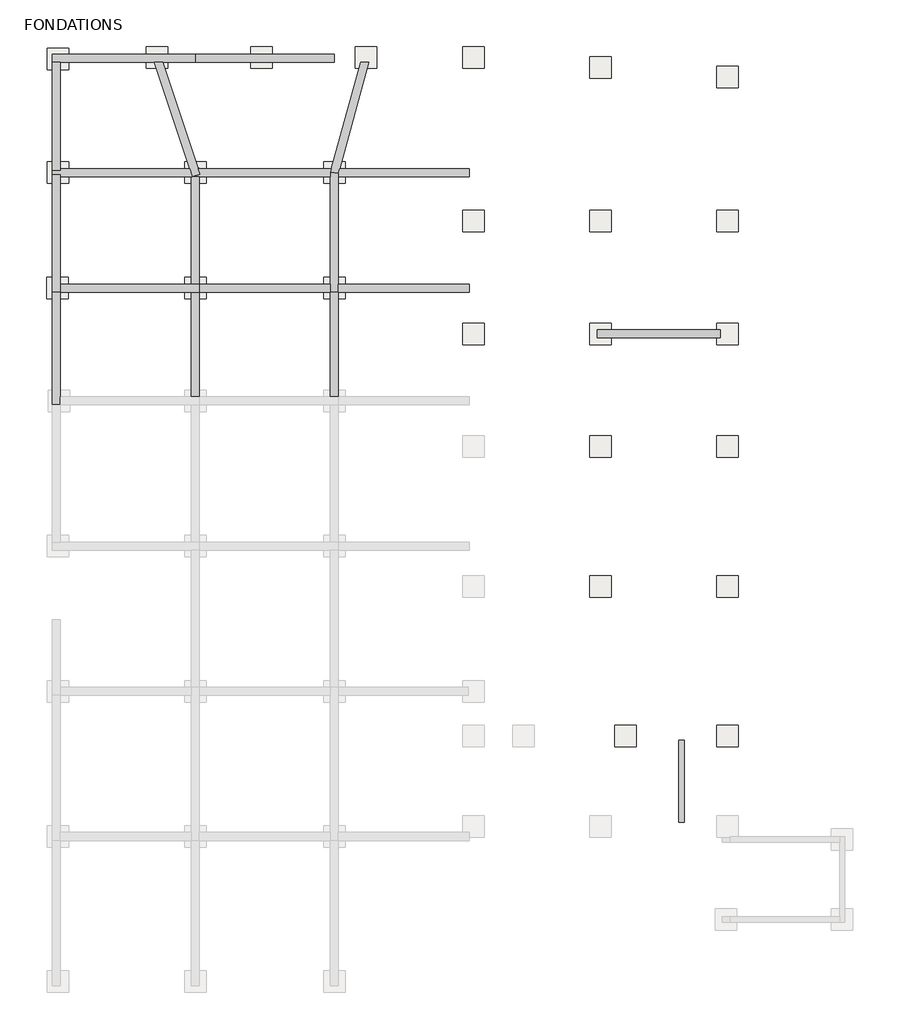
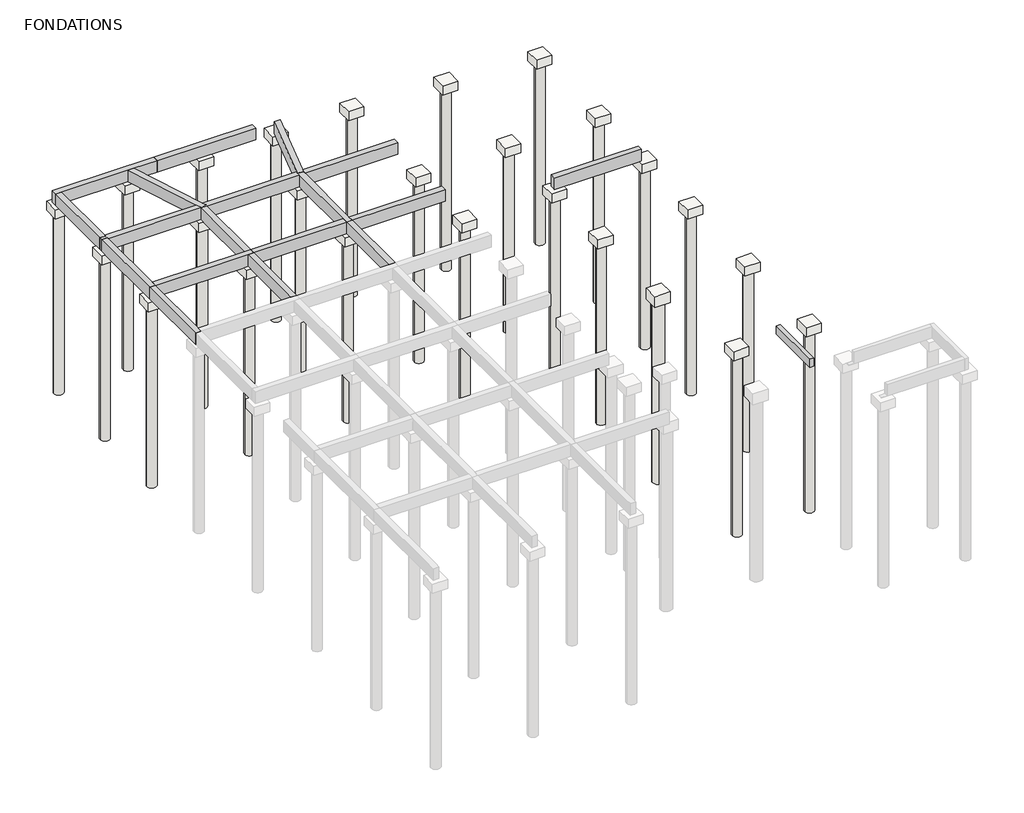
# One storey, part 3 of 3: 50 slabs, 19 beams.
"""IFC4 building model written with IfcOpenShell, lengths in millimetres."""

from ifc_helpers import new_model, si_unit, point, frame, frame_2d, origin, place, context, project, spatial, polyline, circle_curve, trimmed, segment, composite_curve, outline, extrude, faceted_brep, element, save

model = new_model("IFC4")

# Units and contexts
model_context = context("Model", 3, world=origin())
ifc_project = project(units=[si_unit("LENGTHUNIT", "METRE", prefix="MILLI")], contexts=[model_context])

# Site, building, storey
site = spatial("IfcSite", under=ifc_project)
building = spatial("IfcBuilding", under=site)
storey = spatial("IfcBuildingStorey", under=building, Name="FONDATIONS", Elevation=-650.0)

# Beams
placement = place(None, origin())
element("IfcBeam", 1, ObjectType="Longrine : 20x65h", at=placement, inside=storey, context=model_context, shape_type="SweptSolid", body=[
    extrude(outline(polyline([(38079.048278, 50129.8020815), (38279.048278, 50129.8020815), (38279.048278, 47079.8020813), (38079.048278, 47079.8020813), (38079.048278, 50129.8020815)])), frame((0.0, 0.0, -650.0), z_axis=(0.0, 0.0, 1.0), x_axis=(1.0, 0.0, 0.0)), (0.0, 0.0, 1.0), 450.0),
])
element("IfcBeam", 2, ObjectType="Longrine : 30x65h", at=placement, inside=storey, context=model_context, shape_type="SweptSolid", body=[
    extrude(outline(polyline([(39626.7482776, 65399.8020814), (39626.7482776, 65099.8020814), (35054.0482776, 65099.8020814), (35054.0482776, 65399.8020814), (39626.7482776, 65399.8020814)])), frame((0.0, 0.0, -650.0), z_axis=(0.0, 0.0, 1.0), x_axis=(1.0, 0.0, 0.0)), (0.0, 0.0, 1.0), 650.0),
])
element("IfcBeam", 3, ObjectType="Longrine : 30x65h", at=placement, inside=storey, context=model_context, shape_type="SweptSolid", body=[
    extrude(outline(polyline([(20092.0406356, 75644.7694586), (25266.0406356, 75644.7694586), (25266.0406356, 75344.7694586), (20092.0406356, 75344.7694586), (20092.0406356, 75644.7694586)])), frame((0.0, 0.0, -650.0), z_axis=(0.0, 0.0, 1.0), x_axis=(1.0, 0.0, 0.0)), (0.0, 0.0, 1.0), 650.0),
])
element("IfcBeam", 4, ObjectType="Longrine : 30x65h", at=placement, inside=storey, context=model_context, shape_type="Brep", body=[
    faceted_brep([(20092.0406356, 75644.7694586, 0.0), (20092.0406356, 75644.7694586, -650.0), (14769.048278, 75644.7694586, -650.0), (14769.048278, 75644.7694586, 0.0), (15319.509617, 75644.7694586, 0.0), (20092.0406356, 75344.7694586, -650.0), (18879.6632021, 75344.7694586, -650.0), (18563.3064902, 75344.7694586, -650.0), (15069.048278, 75344.7694586, -650.0), (14769.048278, 75344.7694586, -650.0), (20092.0406356, 75344.7694586, 0.0), (18879.6632021, 75344.7694586, 0.0), (18563.3064902, 75344.7694586, 0.0), (15069.048278, 75344.7694586, 0.0), (14769.048278, 75344.7694586, 0.0)], [[[0, 1, 2, 3, 4]], [[1, 5, 6, 7, 8, 9, 2]], [[5, 10, 11, 12, 13, 14, 9, 8, 7, 6]], [[10, 0, 4, 3, 14, 13, 12, 11]], [[0, 10, 5, 1]], [[3, 2, 9, 14]]]),
])
element("IfcBeam", 5, ObjectType="Longrine : 30x65h", at=placement, inside=storey, context=model_context, shape_type="Brep", body=[
    faceted_brep([(14769.048278, 71335.7608439, 0.0), (14769.048278, 71335.7608439, -650.0), (15069.048278, 71335.7608439, -650.0), (15069.048278, 71335.7608439, 0.0), (14769.048278, 75324.2867291, 0.0), (14769.048278, 75344.7694586, 0.0), (14769.048278, 75344.7694586, -650.0), (15069.048278, 75344.7694586, -650.0), (15069.048278, 71399.8020807, -650.0), (15069.048278, 75344.7694586, -200.0), (15069.048278, 75344.7694586, 0.0), (15069.048278, 71399.8020807, 0.0)], [[[0, 1, 2, 3]], [[1, 0, 4, 5, 6]], [[2, 1, 6, 7, 8]], [[3, 2, 8, 7, 9, 10, 11]], [[0, 3, 11, 10, 5, 4]], [[6, 5, 10, 9, 7]]]),
])
element("IfcBeam", 6, ObjectType="Longrine : 30x65h", at=placement, inside=storey, context=model_context, shape_type="Brep", body=[
    faceted_brep([(14769.048278, 71164.2771549, 0.0), (15069.048278, 71164.2771549, 0.0), (15069.048278, 71164.2771549, -650.0), (14769.048278, 71164.2771549, -650.0), (14769.048278, 66799.8020807, -650.0), (14769.048278, 66799.8020807, 0.0), (15069.048278, 71099.8020807, -650.0), (15069.048278, 67099.8020807, -650.0), (15069.048278, 66799.8020807, -650.0), (15069.048278, 71099.8020807, 0.0), (15069.048278, 67099.8020807, 0.0), (15069.048278, 66799.8020807, 0.0)], [[[0, 1, 2, 3]], [[0, 3, 4, 5]], [[3, 2, 6, 7, 8, 4]], [[2, 1, 9, 10, 11, 8, 7, 6]], [[1, 0, 5, 11, 10, 9]], [[5, 4, 8, 11]]]),
])
element("IfcBeam", 7, ObjectType="Longrine : 30x65h", at=placement, inside=storey, context=model_context, shape_type="Brep", body=[
    faceted_brep([(14769.048278, 62602.7522291, -650.0), (14769.048278, 62602.7522291, 0.0), (14769.048278, 62835.2867291, 0.0), (14769.048278, 66799.8020807, 0.0), (14769.048278, 66799.8020807, -650.0), (15069.048278, 62602.7522291, -650.0), (15069.048278, 66799.8020807, -650.0), (15069.048278, 62902.7522291, -650.0), (15069.048278, 62602.7522291, 0.0), (15069.048278, 66799.8020807, -200.0), (15069.048278, 66799.8020807, 0.0), (15069.048278, 62902.7522291, 0.0)], [[[0, 1, 2, 3, 4]], [[5, 0, 4, 6, 7]], [[8, 5, 7, 6, 9, 10, 11]], [[1, 8, 11, 10, 3, 2]], [[1, 0, 5, 8]], [[4, 3, 10, 9, 6]]]),
])
element("IfcBeam", 8, ObjectType="Longrine : 30x65h", at=placement, inside=storey, context=model_context, shape_type="Brep", body=[
    faceted_brep([(19984.0548702, 71099.8020807, -650.0), (19984.0548702, 71099.8020807, 0.0), (19883.6478526, 71399.8020807, 0.0), (18563.3064902, 75344.7694586, 0.0), (18563.3064902, 75344.7694586, -200.0), (18563.3064902, 75344.7694586, -650.0), (19883.6478526, 71399.8020807, -650.0), (20268.5438556, 71195.0177159, -650.0), (18879.6632021, 75344.7694586, -650.0), (20199.2146002, 71402.162367, -650.0), (20200.0154828, 71399.7694586, -650.0), (20268.5438556, 71195.0177159, 0.0), (18879.6632021, 75344.7694586, -200.0), (18879.6632021, 75344.7694586, 0.0), (20200.0154828, 71399.7694586, 0.0)], [[[0, 1, 2, 3, 4, 5, 6]], [[7, 0, 6, 5, 8, 9, 10]], [[11, 7, 10, 9, 8, 12, 13, 14]], [[1, 11, 14, 13, 3, 2]], [[1, 0, 7, 11]], [[8, 5, 4, 3, 13, 12]]]),
])
element("IfcBeam", 9, ObjectType="Longrine : 30x65h", at=placement, inside=storey, context=model_context, shape_type="Brep", body=[
    faceted_brep([(25116.0406356, 71270.094564, -650.0), (25116.0406356, 71270.094564, 0.0), (25151.8400065, 71399.7694586, 0.0), (26240.9368486, 75344.7694586, 0.0), (26240.9368486, 75344.7694586, -200.0), (26240.9368486, 75344.7694586, -650.0), (25151.8400065, 71399.7694586, -650.0), (25416.0406356, 71229.4443532, -650.0), (26552.1591595, 75344.7694586, -650.0), (25463.0713234, 71399.8020807, -650.0), (25416.0406356, 71229.4443532, 0.0), (26552.1591595, 75344.7694586, -200.0), (26552.1591595, 75344.7694586, 0.0), (25463.0713234, 71399.8020807, 0.0)], [[[0, 1, 2, 3, 4, 5, 6]], [[7, 0, 6, 5, 8, 9]], [[10, 7, 9, 8, 11, 12, 13]], [[1, 10, 13, 12, 3, 2]], [[1, 0, 7, 10]], [[8, 5, 4, 3, 12, 11]]]),
])
element("IfcBeam", 10, ObjectType="Longrine : 30x65h", at=placement, inside=storey, context=model_context, shape_type="Brep", body=[
    faceted_brep([(25116.0406356, 71270.094564, 0.0), (25116.0406356, 71270.094564, -650.0), (25116.0406356, 71099.7694586, -650.0), (25116.0406356, 67099.8020807, -650.0), (25116.0406356, 66799.8020807, -650.0), (25116.0406356, 66799.8020807, 0.0), (25116.0406356, 67099.8020807, 0.0), (25116.0406356, 71099.7694586, 0.0), (25416.0406356, 71229.4443532, -650.0), (25416.0406356, 71099.8020807, -650.0), (25416.0406356, 67099.8020807, -650.0), (25416.0406356, 66799.8020807, -650.0), (25416.0406356, 71229.4443532, 0.0), (25416.0406356, 71099.8020807, 0.0), (25416.0406356, 67099.8020807, 0.0), (25416.0406356, 66799.8020807, 0.0)], [[[0, 1, 2, 3, 4, 5, 6, 7]], [[1, 8, 9, 10, 11, 4, 3, 2]], [[8, 12, 13, 14, 15, 11, 10, 9]], [[12, 0, 7, 6, 5, 15, 14, 13]], [[0, 12, 8, 1]], [[5, 4, 11, 15]]]),
])
element("IfcBeam", 11, ObjectType="Longrine : 30x65h", at=placement, inside=storey, context=model_context, shape_type="Brep", body=[
    faceted_brep([(19984.0548702, 71099.8020807, -650.0), (19984.0548702, 71099.8020807, 0.0), (19942.0406356, 71099.8020807, 0.0), (15069.048278, 71099.8020807, 0.0), (15069.048278, 71099.8020807, -200.0), (15069.048278, 71099.8020807, -650.0), (19942.0406356, 71099.8020807, -650.0), (19883.6478526, 71399.8020807, -650.0), (15069.048278, 71164.2771549, -650.0), (14769.048278, 71164.2771549, -650.0), (14769.048278, 71335.7608439, -650.0), (15069.048278, 71335.7608439, -650.0), (15069.048278, 71399.8020807, -650.0), (19883.6478526, 71399.8020807, 0.0), (19883.6478526, 71399.8020807, -200.0), (15069.048278, 71399.8020807, -200.0), (15069.048278, 71399.8020807, 0.0), (15069.048278, 71335.7608439, 0.0), (14769.048278, 71335.7608439, 0.0), (14769.048278, 71164.2771549, 0.0), (15069.048278, 71164.2771549, 0.0)], [[[0, 1, 2, 3, 4, 5, 6]], [[7, 0, 6, 5, 8, 9, 10, 11, 12]], [[13, 14, 7, 12, 15, 16]], [[1, 13, 16, 17, 18, 19, 20, 3, 2]], [[1, 0, 7, 14, 13]], [[18, 10, 9, 19]], [[17, 11, 10, 18]], [[11, 17, 16, 15, 12]], [[8, 20, 19, 9]], [[20, 8, 5, 4, 3]]]),
])
element("IfcBeam", 12, ObjectType="Longrine : 30x65h", at=placement, inside=storey, context=model_context, shape_type="Brep", body=[
    faceted_brep([(19983.9574006, 71099.7694586, 0.0), (19983.9574006, 71099.7694586, -650.0), (20242.0406356, 71099.7694586, -650.0), (25116.0406356, 71099.7694586, -650.0), (25116.0406356, 71099.7694586, -200.0), (25116.0406356, 71099.7694586, 0.0), (20242.0406356, 71099.7694586, 0.0), (20268.5438556, 71195.0177159, -650.0), (20200.0154828, 71399.7694586, -650.0), (20242.0406356, 71399.7694586, -650.0), (25151.8400065, 71399.7694586, -650.0), (25116.0406356, 71270.094564, -650.0), (20200.0154828, 71399.7694586, -200.0), (20200.0154828, 71399.7694586, 0.0), (25151.8400065, 71399.7694586, 0.0), (25151.8400065, 71399.7694586, -200.0), (20268.5438556, 71195.0177159, 0.0), (25116.0406356, 71270.094564, 0.0)], [[[0, 1, 2, 3, 4, 5, 6]], [[7, 8, 9, 10, 11, 3, 2, 1]], [[8, 12, 13, 14, 15, 10, 9]], [[13, 16, 0, 6, 5, 17, 14]], [[8, 7, 16, 13, 12]], [[11, 10, 15, 14, 17]], [[5, 4, 3, 11, 17]], [[16, 7, 1, 0]]]),
])
element("IfcBeam", 13, ObjectType="Longrine : 30x65h", at=placement, inside=storey, context=model_context, shape_type="Brep", body=[
    faceted_brep([(30289.0482779, 71099.8020807, -650.0), (30289.0482779, 71099.8020807, -200.0), (30289.0482779, 71099.8020807, 0.0), (25416.0406356, 71099.8020807, 0.0), (25416.0406356, 71099.8020807, -200.0), (25416.0406356, 71099.8020807, -650.0), (30289.0482779, 71399.8020807, -650.0), (25416.0406356, 71229.4443532, -650.0), (25463.0713234, 71399.8020807, -650.0), (30289.0482779, 71399.8020807, 0.0), (30289.0482779, 71399.8020807, -200.0), (25463.0713234, 71399.8020807, -200.0), (25463.0713234, 71399.8020807, 0.0), (25416.0406356, 71229.4443532, 0.0)], [[[0, 1, 2, 3, 4, 5]], [[6, 0, 5, 7, 8]], [[9, 10, 6, 8, 11, 12]], [[2, 9, 12, 13, 3]], [[2, 1, 0, 6, 10, 9]], [[8, 7, 13, 12, 11]], [[5, 4, 3, 13, 7]]]),
])
element("IfcBeam", 14, ObjectType="Longrine : 30x65h", at=placement, inside=storey, context=model_context, shape_type="Brep", body=[
    faceted_brep([(20242.0406356, 66799.8020807, -650.0), (20242.0406356, 66799.8020807, -200.0), (20242.0406356, 66799.8020807, 0.0), (20241.5466704, 66799.8020807, 0.0), (19942.0406356, 66799.8020807, 0.0), (15069.048278, 66799.8020807, 0.0), (15069.048278, 66799.8020807, -200.0), (15069.048278, 66799.8020807, -650.0), (19942.0406356, 66799.8020807, -650.0), (20242.0406356, 67099.8020807, -650.0), (15069.048278, 67099.8020807, -650.0), (19942.0406356, 67099.8020807, -650.0), (20242.0406356, 67099.8020807, 0.0), (15069.048278, 67099.8020807, -200.0), (15069.048278, 67099.8020807, 0.0), (19942.0406356, 67099.8020807, 0.0)], [[[0, 1, 2, 3, 4, 5, 6, 7, 8]], [[9, 0, 8, 7, 10, 11]], [[12, 9, 11, 10, 13, 14, 15]], [[2, 12, 15, 14, 5, 4, 3]], [[7, 6, 5, 14, 13, 10]], [[2, 1, 0, 9, 12]]]),
])
element("IfcBeam", 15, ObjectType="Longrine : 30x65h", at=placement, inside=storey, context=model_context, shape_type="Brep", body=[
    faceted_brep([(20242.0406356, 66799.8020807, 0.0), (20242.0406356, 66799.8020807, -650.0), (25116.0406356, 66799.8020807, -650.0), (25116.0406356, 66799.8020807, -200.0), (25116.0406356, 66799.8020807, 0.0), (20242.0406356, 67099.8020807, -650.0), (25116.0406356, 67099.8020807, -650.0), (20242.0406356, 67099.8020807, -200.0), (20242.0406356, 67099.8020807, 0.0), (25116.0406356, 67099.8020807, 0.0), (25116.0406356, 67099.8020807, -200.0)], [[[0, 1, 2, 3, 4]], [[1, 5, 6, 2]], [[5, 7, 8, 9, 10, 6]], [[8, 0, 4, 9]], [[1, 0, 8, 7, 5]], [[4, 3, 2, 6, 10, 9]]]),
])
element("IfcBeam", 16, ObjectType="Longrine : 30x65h", at=placement, inside=storey, context=model_context, shape_type="Brep", body=[
    faceted_brep([(30289.0482779, 66799.8020807, -650.0), (30289.0482779, 66799.8020807, -200.0), (30289.0482779, 66799.8020807, 0.0), (25416.0406356, 66799.8020807, 0.0), (25416.0406356, 66799.8020807, -200.0), (25416.0406356, 66799.8020807, -650.0), (30289.0482779, 67099.8020807, -650.0), (25416.0406356, 67099.8020807, -650.0), (30289.0482779, 67099.8020807, 0.0), (30289.0482779, 67099.8020807, -200.0), (25416.0406356, 67099.8020807, -200.0), (25416.0406356, 67099.8020807, 0.0)], [[[0, 1, 2, 3, 4, 5]], [[6, 0, 5, 7]], [[8, 9, 6, 7, 10, 11]], [[2, 8, 11, 3]], [[2, 1, 0, 6, 9, 8]], [[7, 5, 4, 3, 11, 10]]]),
])
element("IfcBeam", 17, ObjectType="Longrine : 30x65h", at=placement, inside=storey, context=model_context, shape_type="Brep", body=[
    faceted_brep([(19942.0406356, 67099.8020807, -650.0), (19942.0406356, 67099.8020807, -200.0), (19942.0406356, 67099.8020807, 0.0), (19942.0406356, 71099.8020807, 0.0), (19942.0406356, 71099.8020807, -200.0), (19942.0406356, 71099.8020807, -650.0), (19984.0548697, 71099.8020807, 0.0), (20242.0406356, 71099.8020807, 0.0), (20242.0406356, 71099.8020807, -650.0), (19984.0548697, 71099.8020807, -650.0), (20242.0406356, 67099.8020807, -650.0), (20242.0406356, 67099.8020807, -200.0), (20242.0406356, 67099.8020807, 0.0)], [[[0, 1, 2, 3, 4, 5]], [[5, 4, 3, 6, 7, 8, 9]], [[2, 1, 0, 10, 11, 12]], [[0, 5, 9, 8, 10]], [[8, 7, 12, 11, 10]], [[3, 2, 12, 7, 6]]]),
    faceted_brep([(20199.2146002, 71402.162367, -650.0), (20242.0406356, 71402.162367, -650.0), (20242.0406356, 71399.7694586, -650.0), (20200.0045645, 71399.7694586, -650.0), (20242.0406356, 71402.162367, -200.0), (20242.0406356, 71399.7694586, -200.0), (20199.2146002, 71402.162367, -200.0), (20200.0154828, 71399.7694586, -200.0)], [[[0, 1, 2, 3]], [[2, 1, 4, 5]], [[1, 0, 6, 4]], [[0, 3, 7, 6]], [[3, 2, 5, 7]], [[5, 4, 6, 7]]]),
])
element("IfcBeam", 18, ObjectType="Longrine : 30x65h", at=placement, inside=storey, context=model_context, shape_type="Brep", body=[
    faceted_brep([(20242.0406356, 62902.7522291, -650.0), (20242.0406356, 66799.8020807, -650.0), (20242.0406356, 66799.8020807, -200.0), (20242.0406356, 62902.7522291, -200.0), (19942.0406356, 66799.8020807, -650.0), (19942.0406356, 66799.8020807, -200.0), (19942.0406356, 66799.8020807, 0.0), (20241.5466704, 66799.8020807, 0.0), (20241.5466704, 66799.8020807, -200.0), (19942.0406356, 62902.7522291, 0.0), (19942.0406356, 62902.7522291, -200.0), (19942.0406356, 62902.7522291, -650.0), (20241.5466704, 62902.7522291, -650.0), (20241.5466704, 62902.7522291, -200.0), (20241.5466704, 62902.7522291, 0.0)], [[[0, 1, 2, 3]], [[4, 5, 6, 7, 8, 2, 1]], [[9, 10, 11, 12, 0, 3, 13, 14]], [[6, 5, 4, 11, 10, 9]], [[4, 1, 0, 12, 11]], [[6, 9, 14, 7]], [[13, 8, 7, 14]], [[8, 13, 3, 2]]]),
])
element("IfcBeam", 19, ObjectType="Longrine : 30x65h", at=placement, inside=storey, context=model_context, shape_type="Brep", body=[
    faceted_brep([(25116.0406356, 66799.8020807, 0.0), (25116.0406356, 66799.8020807, -200.0), (25116.0406356, 66799.8020807, -650.0), (25116.0406356, 62902.7522291, -650.0), (25116.0406356, 62902.7522291, -200.0), (25116.0406356, 62902.7522291, 0.0), (25416.0406356, 66799.8020807, -650.0), (25416.0406356, 62902.7522291, -650.0), (25416.0406356, 66799.8020807, -200.0), (25416.0406356, 66799.8020807, 0.0), (25416.0406356, 62902.7522291, 0.0), (25416.0406356, 62902.7522291, -200.0)], [[[0, 1, 2, 3, 4, 5]], [[2, 6, 7, 3]], [[6, 8, 9, 10, 11, 7]], [[9, 0, 5, 10]], [[2, 1, 0, 9, 8, 6]], [[5, 4, 3, 7, 11, 10]]]),
])

# Slabs
element("IfcSlab", 20, ObjectType="M_Pieu-Béton : Diamètre de 50 cm", at=placement, inside=storey, context=model_context, shape_type="SweptSolid", body=[
    extrude(outline(composite_curve([segment(trimmed(circle_curve(frame_2d((30439.0482779, 69449.8020814)), 250.0), [point((30189.0482779, 69449.8020814))], [point((30689.0482779, 69449.8020814))], False, "CARTESIAN"), True, "CONTINUOUS"), segment(trimmed(circle_curve(frame_2d((30439.0482779, 69449.8020814)), 250.0), [point((30689.0482779, 69449.8020814))], [point((30189.0482779, 69449.8020814))], False, "CARTESIAN"), True, "CONTINUOUS")], self_intersect=False)), frame((0.0, 0.0, -11150.0), z_axis=(0.0, 0.0, 1.0), x_axis=(1.0, 0.0, 0.0)), (0.0, 0.0, 1.0), 10000.0),
])
element("IfcSlab", 21, ObjectType="M_Pieu-Béton : Diamètre de 60 cm", at=placement, inside=storey, context=model_context, shape_type="SweptSolid", body=[
    extrude(outline(composite_curve([segment(trimmed(circle_curve(frame_2d((35164.048278, 55849.8020814)), 300.0), [point((34864.048278, 55849.8020814))], [point((35464.048278, 55849.8020814))], False, "CARTESIAN"), True, "CONTINUOUS"), segment(trimmed(circle_curve(frame_2d((35164.048278, 55849.8020814)), 300.0), [point((35464.048278, 55849.8020814))], [point((34864.048278, 55849.8020814))], False, "CARTESIAN"), True, "CONTINUOUS")], self_intersect=False)), frame((0.0, 0.0, -11250.0), z_axis=(0.0, 0.0, 1.0), x_axis=(1.0, 0.0, 0.0)), (0.0, 0.0, 1.0), 10000.0),
])
element("IfcSlab", 22, ObjectType="M_Pieu-Béton : Diamètre de 50 cm", at=placement, inside=storey, context=model_context, shape_type="SweptSolid", body=[
    extrude(outline(composite_curve([segment(trimmed(circle_curve(frame_2d((18661.2406356, 75524.7694586)), 250.0), [point((18411.2406356, 75524.7694586))], [point((18911.2406356, 75524.7694586))], False, "CARTESIAN"), True, "CONTINUOUS"), segment(trimmed(circle_curve(frame_2d((18661.2406356, 75524.7694586)), 250.0), [point((18911.2406356, 75524.7694586))], [point((18411.2406356, 75524.7694586))], False, "CARTESIAN"), True, "CONTINUOUS")], self_intersect=False)), frame((0.0, 0.0, -11150.0), z_axis=(0.0, 0.0, 1.0), x_axis=(1.0, 0.0, 0.0)), (0.0, 0.0, 1.0), 10000.0),
])
element("IfcSlab", 23, ObjectType="M_Pieu-Béton : Diamètre de 50 cm", at=placement, inside=storey, context=model_context, shape_type="SweptSolid", body=[
    extrude(outline(composite_curve([segment(trimmed(circle_curve(frame_2d((14989.048278, 75469.7694586)), 250.0), [point((14739.048278, 75469.7694586))], [point((15239.048278, 75469.7694586))], False, "CARTESIAN"), True, "CONTINUOUS"), segment(trimmed(circle_curve(frame_2d((14989.048278, 75469.7694586)), 250.0), [point((15239.048278, 75469.7694586))], [point((14739.048278, 75469.7694586))], False, "CARTESIAN"), True, "CONTINUOUS")], self_intersect=False)), frame((0.0, 0.0, -11150.0), z_axis=(0.0, 0.0, 1.0), x_axis=(1.0, 0.0, 0.0)), (0.0, 0.0, 1.0), 10000.0),
])
element("IfcSlab", 24, ObjectType="M_Pieu-Béton : Diamètre de 50 cm", at=placement, inside=storey, context=model_context, shape_type="SweptSolid", body=[
    extrude(outline(composite_curve([segment(trimmed(circle_curve(frame_2d((14989.048278, 71249.8020807)), 250.0), [point((14739.048278, 71249.8020807))], [point((15239.048278, 71249.8020807))], False, "CARTESIAN"), True, "CONTINUOUS"), segment(trimmed(circle_curve(frame_2d((14989.048278, 71249.8020807)), 250.0), [point((15239.048278, 71249.8020807))], [point((14739.048278, 71249.8020807))], False, "CARTESIAN"), True, "CONTINUOUS")], self_intersect=False)), frame((0.0, 0.0, -11150.0), z_axis=(0.0, 0.0, 1.0), x_axis=(1.0, 0.0, 0.0)), (0.0, 0.0, 1.0), 10000.0),
])
element("IfcSlab", 25, ObjectType="M_Pieu-Béton : Diamètre de 50 cm", at=placement, inside=storey, context=model_context, shape_type="SweptSolid", body=[
    extrude(outline(composite_curve([segment(trimmed(circle_curve(frame_2d((26446.2406356, 75524.7694586)), 250.0), [point((26196.2406356, 75524.7694586))], [point((26696.2406356, 75524.7694586))], False, "CARTESIAN"), True, "CONTINUOUS"), segment(trimmed(circle_curve(frame_2d((26446.2406356, 75524.7694586)), 250.0), [point((26696.2406356, 75524.7694586))], [point((26196.2406356, 75524.7694586))], False, "CARTESIAN"), True, "CONTINUOUS")], self_intersect=False)), frame((0.0, 0.0, -11150.0), z_axis=(0.0, 0.0, 1.0), x_axis=(1.0, 0.0, 0.0)), (0.0, 0.0, 1.0), 10000.0),
])
element("IfcSlab", 26, ObjectType="M_Pieu-Béton : Diamètre de 50 cm", at=placement, inside=storey, context=model_context, shape_type="SweptSolid", body=[
    extrude(outline(composite_curve([segment(trimmed(circle_curve(frame_2d((30438.6485996, 75537.6379402)), 250.0), [point((30188.6485996, 75537.6379402))], [point((30688.6485996, 75537.6379402))], False, "CARTESIAN"), True, "CONTINUOUS"), segment(trimmed(circle_curve(frame_2d((30438.6485996, 75537.6379402)), 250.0), [point((30688.6485996, 75537.6379402))], [point((30188.6485996, 75537.6379402))], False, "CARTESIAN"), True, "CONTINUOUS")], self_intersect=False)), frame((0.0, 0.0, -11150.0), z_axis=(0.0, 0.0, 1.0), x_axis=(1.0, 0.0, 0.0)), (0.0, 0.0, 1.0), 10000.0),
])
element("IfcSlab", 27, ObjectType="M_Pieu-Béton : Diamètre de 50 cm", at=placement, inside=storey, context=model_context, shape_type="SweptSolid", body=[
    extrude(outline(composite_curve([segment(trimmed(circle_curve(frame_2d((35164.048278, 75163.995739)), 250.0), [point((34914.048278, 75163.995739))], [point((35414.048278, 75163.995739))], False, "CARTESIAN"), True, "CONTINUOUS"), segment(trimmed(circle_curve(frame_2d((35164.048278, 75163.995739)), 250.0), [point((35414.048278, 75163.995739))], [point((34914.048278, 75163.995739))], False, "CARTESIAN"), True, "CONTINUOUS")], self_intersect=False)), frame((0.0, 0.0, -11150.0), z_axis=(0.0, 0.0, 1.0), x_axis=(1.0, 0.0, 0.0)), (0.0, 0.0, 1.0), 10000.0),
])
element("IfcSlab", 28, ObjectType="M_Pieu-Béton : Diamètre de 50 cm", at=placement, inside=storey, context=model_context, shape_type="SweptSolid", body=[
    extrude(outline(composite_curve([segment(trimmed(circle_curve(frame_2d((39889.0482781, 74805.9346769)), 250.0), [point((39639.0482781, 74805.9346769))], [point((40139.0482781, 74805.9346769))], False, "CARTESIAN"), True, "CONTINUOUS"), segment(trimmed(circle_curve(frame_2d((39889.0482781, 74805.9346769)), 250.0), [point((40139.0482781, 74805.9346769))], [point((39639.0482781, 74805.9346769))], False, "CARTESIAN"), True, "CONTINUOUS")], self_intersect=False)), frame((0.0, 0.0, -11150.0), z_axis=(0.0, 0.0, 1.0), x_axis=(1.0, 0.0, 0.0)), (0.0, 0.0, 1.0), 10000.0),
])
element("IfcSlab", 29, ObjectType="M_Pieu-Béton : Diamètre de 50 cm", at=placement, inside=storey, context=model_context, shape_type="SweptSolid", body=[
    extrude(outline(composite_curve([segment(trimmed(circle_curve(frame_2d((35164.048278, 69449.8020814)), 250.0), [point((34914.048278, 69449.8020814))], [point((35414.048278, 69449.8020814))], False, "CARTESIAN"), True, "CONTINUOUS"), segment(trimmed(circle_curve(frame_2d((35164.048278, 69449.8020814)), 250.0), [point((35414.048278, 69449.8020814))], [point((34914.048278, 69449.8020814))], False, "CARTESIAN"), True, "CONTINUOUS")], self_intersect=False)), frame((0.0, 0.0, -11150.0), z_axis=(0.0, 0.0, 1.0), x_axis=(1.0, 0.0, 0.0)), (0.0, 0.0, 1.0), 10000.0),
])
element("IfcSlab", 30, ObjectType="M_Pieu-Béton : Diamètre de 50 cm", at=placement, inside=storey, context=model_context, shape_type="SweptSolid", body=[
    extrude(outline(composite_curve([segment(trimmed(circle_curve(frame_2d((39889.0482781, 69449.8020814)), 250.0), [point((39639.0482781, 69449.8020814))], [point((40139.0482781, 69449.8020814))], False, "CARTESIAN"), True, "CONTINUOUS"), segment(trimmed(circle_curve(frame_2d((39889.0482781, 69449.8020814)), 250.0), [point((40139.0482781, 69449.8020814))], [point((39639.0482781, 69449.8020814))], False, "CARTESIAN"), True, "CONTINUOUS")], self_intersect=False)), frame((0.0, 0.0, -11150.0), z_axis=(0.0, 0.0, 1.0), x_axis=(1.0, 0.0, 0.0)), (0.0, 0.0, 1.0), 10000.0),
])
element("IfcSlab", 31, ObjectType="M_Pieu-Béton : Diamètre de 50 cm", at=placement, inside=storey, context=model_context, shape_type="SweptSolid", body=[
    extrude(outline(composite_curve([segment(trimmed(circle_curve(frame_2d((35164.048278, 65249.8020814)), 250.0), [point((34914.048278, 65249.8020814))], [point((35414.048278, 65249.8020814))], False, "CARTESIAN"), True, "CONTINUOUS"), segment(trimmed(circle_curve(frame_2d((35164.048278, 65249.8020814)), 250.0), [point((35414.048278, 65249.8020814))], [point((34914.048278, 65249.8020814))], False, "CARTESIAN"), True, "CONTINUOUS")], self_intersect=False)), frame((0.0, 0.0, -11150.0), z_axis=(0.0, 0.0, 1.0), x_axis=(1.0, 0.0, 0.0)), (0.0, 0.0, 1.0), 10000.0),
])
element("IfcSlab", 32, ObjectType="M_Pieu-Béton : Diamètre de 50 cm", at=placement, inside=storey, context=model_context, shape_type="SweptSolid", body=[
    extrude(outline(composite_curve([segment(trimmed(circle_curve(frame_2d((39889.0482781, 65249.8020814)), 250.0), [point((39639.0482781, 65249.8020814))], [point((40139.0482781, 65249.8020814))], False, "CARTESIAN"), True, "CONTINUOUS"), segment(trimmed(circle_curve(frame_2d((39889.0482781, 65249.8020814)), 250.0), [point((40139.0482781, 65249.8020814))], [point((39639.0482781, 65249.8020814))], False, "CARTESIAN"), True, "CONTINUOUS")], self_intersect=False)), frame((0.0, 0.0, -11150.0), z_axis=(0.0, 0.0, 1.0), x_axis=(1.0, 0.0, 0.0)), (0.0, 0.0, 1.0), 10000.0),
])
element("IfcSlab", 33, ObjectType="M_Pieu-Béton : Diamètre de 50 cm", at=placement, inside=storey, context=model_context, shape_type="SweptSolid", body=[
    extrude(outline(composite_curve([segment(trimmed(circle_curve(frame_2d((39889.0482781, 61049.8020814)), 250.0), [point((39639.0482781, 61049.8020814))], [point((40139.0482781, 61049.8020814))], False, "CARTESIAN"), True, "CONTINUOUS"), segment(trimmed(circle_curve(frame_2d((39889.0482781, 61049.8020814)), 250.0), [point((40139.0482781, 61049.8020814))], [point((39639.0482781, 61049.8020814))], False, "CARTESIAN"), True, "CONTINUOUS")], self_intersect=False)), frame((0.0, 0.0, -11150.0), z_axis=(0.0, 0.0, 1.0), x_axis=(1.0, 0.0, 0.0)), (0.0, 0.0, 1.0), 10000.0),
])
element("IfcSlab", 34, ObjectType="M_Pieu-Béton : Diamètre de 50 cm", at=placement, inside=storey, context=model_context, shape_type="SweptSolid", body=[
    extrude(outline(composite_curve([segment(trimmed(circle_curve(frame_2d((35164.048278, 61049.8020814)), 250.0), [point((34914.048278, 61049.8020814))], [point((35414.048278, 61049.8020814))], False, "CARTESIAN"), True, "CONTINUOUS"), segment(trimmed(circle_curve(frame_2d((35164.048278, 61049.8020814)), 250.0), [point((35414.048278, 61049.8020814))], [point((34914.048278, 61049.8020814))], False, "CARTESIAN"), True, "CONTINUOUS")], self_intersect=False)), frame((0.0, 0.0, -11150.0), z_axis=(0.0, 0.0, 1.0), x_axis=(1.0, 0.0, 0.0)), (0.0, 0.0, 1.0), 10000.0),
])
element("IfcSlab", 35, ObjectType="M_Pieu-Béton : Diamètre de 50 cm", at=placement, inside=storey, context=model_context, shape_type="SweptSolid", body=[
    extrude(outline(composite_curve([segment(trimmed(circle_curve(frame_2d((30439.0482779, 65249.8020814)), 250.0), [point((30189.0482779, 65249.8020814))], [point((30689.0482779, 65249.8020814))], False, "CARTESIAN"), True, "CONTINUOUS"), segment(trimmed(circle_curve(frame_2d((30439.0482779, 65249.8020814)), 250.0), [point((30689.0482779, 65249.8020814))], [point((30189.0482779, 65249.8020814))], False, "CARTESIAN"), True, "CONTINUOUS")], self_intersect=False)), frame((0.0, 0.0, -11150.0), z_axis=(0.0, 0.0, 1.0), x_axis=(1.0, 0.0, 0.0)), (0.0, 0.0, 1.0), 10000.0),
])
element("IfcSlab", 36, ObjectType="M_Pieu-Béton : Diamètre de 50 cm", at=placement, inside=storey, context=model_context, shape_type="SweptSolid", body=[
    extrude(outline(composite_curve([segment(trimmed(circle_curve(frame_2d((39889.0482781, 55849.8020814)), 250.0), [point((39639.0482781, 55849.8020814))], [point((40139.0482781, 55849.8020814))], False, "CARTESIAN"), True, "CONTINUOUS"), segment(trimmed(circle_curve(frame_2d((39889.0482781, 55849.8020814)), 250.0), [point((40139.0482781, 55849.8020814))], [point((39639.0482781, 55849.8020814))], False, "CARTESIAN"), True, "CONTINUOUS")], self_intersect=False)), frame((0.0, 0.0, -11150.0), z_axis=(0.0, 0.0, 1.0), x_axis=(1.0, 0.0, 0.0)), (0.0, 0.0, 1.0), 10000.0),
])
element("IfcSlab", 37, ObjectType="M_Pieu-Béton : Diamètre de 50 cm", at=placement, inside=storey, context=model_context, shape_type="SweptSolid", body=[
    extrude(outline(composite_curve([segment(trimmed(circle_curve(frame_2d((39889.0482781, 50279.8020815)), 250.0), [point((39639.0482781, 50279.8020815))], [point((40139.0482781, 50279.8020815))], False, "CARTESIAN"), True, "CONTINUOUS"), segment(trimmed(circle_curve(frame_2d((39889.0482781, 50279.8020815)), 250.0), [point((40139.0482781, 50279.8020815))], [point((39639.0482781, 50279.8020815))], False, "CARTESIAN"), True, "CONTINUOUS")], self_intersect=False)), frame((0.0, 0.0, -11150.0), z_axis=(0.0, 0.0, 1.0), x_axis=(1.0, 0.0, 0.0)), (0.0, 0.0, 1.0), 10000.0),
])
element("IfcSlab", 38, ObjectType="M_Pieu-Béton : Diamètre de 50 cm", at=placement, inside=storey, context=model_context, shape_type="SweptSolid", body=[
    extrude(outline(composite_curve([segment(trimmed(circle_curve(frame_2d((36089.0482771, 50279.8020815)), 250.0), [point((35839.0482771, 50279.8020815))], [point((36339.0482771, 50279.8020815))], False, "CARTESIAN"), True, "CONTINUOUS"), segment(trimmed(circle_curve(frame_2d((36089.0482771, 50279.8020815)), 250.0), [point((36339.0482771, 50279.8020815))], [point((35839.0482771, 50279.8020815))], False, "CARTESIAN"), True, "CONTINUOUS")], self_intersect=False)), frame((0.0, 0.0, -11150.0), z_axis=(0.0, 0.0, 1.0), x_axis=(1.0, 0.0, 0.0)), (0.0, 0.0, 1.0), 10000.0),
])
element("IfcSlab", 39, ObjectType="M_Pieu-Béton : Diamètre de 50 cm", at=placement, inside=storey, context=model_context, shape_type="SweptSolid", body=[
    extrude(outline(composite_curve([segment(trimmed(circle_curve(frame_2d((14959.048278, 66953.8020807)), 250.0), [point((14709.048278, 66953.8020807))], [point((15209.048278, 66953.8020807))], False, "CARTESIAN"), True, "CONTINUOUS"), segment(trimmed(circle_curve(frame_2d((14959.048278, 66953.8020807)), 250.0), [point((15209.048278, 66953.8020807))], [point((14709.048278, 66953.8020807))], False, "CARTESIAN"), True, "CONTINUOUS")], self_intersect=False)), frame((0.0, 0.0, -11150.0), z_axis=(0.0, 0.0, 1.0), x_axis=(1.0, 0.0, 0.0)), (0.0, 0.0, 1.0), 10000.0),
])
element("IfcSlab", 40, ObjectType="M_Pieu-Béton : Diamètre de 50 cm", at=placement, inside=storey, context=model_context, shape_type="SweptSolid", body=[
    extrude(outline(composite_curve([segment(trimmed(circle_curve(frame_2d((20092.0406356, 71249.8020807)), 250.0), [point((19842.0406356, 71249.8020807))], [point((20342.0406356, 71249.8020807))], False, "CARTESIAN"), True, "CONTINUOUS"), segment(trimmed(circle_curve(frame_2d((20092.0406356, 71249.8020807)), 250.0), [point((20342.0406356, 71249.8020807))], [point((19842.0406356, 71249.8020807))], False, "CARTESIAN"), True, "CONTINUOUS")], self_intersect=False)), frame((0.0, 0.0, -11150.0), z_axis=(0.0, 0.0, 1.0), x_axis=(1.0, 0.0, 0.0)), (0.0, 0.0, 1.0), 10000.0),
])
element("IfcSlab", 41, ObjectType="M_Pieu-Béton : Diamètre de 50 cm", at=placement, inside=storey, context=model_context, shape_type="SweptSolid", body=[
    extrude(outline(composite_curve([segment(trimmed(circle_curve(frame_2d((25266.0406356, 71249.8020807)), 250.0), [point((25016.0406356, 71249.8020807))], [point((25516.0406356, 71249.8020807))], False, "CARTESIAN"), True, "CONTINUOUS"), segment(trimmed(circle_curve(frame_2d((25266.0406356, 71249.8020807)), 250.0), [point((25516.0406356, 71249.8020807))], [point((25016.0406356, 71249.8020807))], False, "CARTESIAN"), True, "CONTINUOUS")], self_intersect=False)), frame((0.0, 0.0, -11150.0), z_axis=(0.0, 0.0, 1.0), x_axis=(1.0, 0.0, 0.0)), (0.0, 0.0, 1.0), 10000.0),
])
element("IfcSlab", 42, ObjectType="M_Pieu-Béton : Diamètre de 50 cm", at=placement, inside=storey, context=model_context, shape_type="SweptSolid", body=[
    extrude(outline(composite_curve([segment(trimmed(circle_curve(frame_2d((25266.0406356, 66949.8020807)), 250.0), [point((25016.0406356, 66949.8020807))], [point((25516.0406356, 66949.8020807))], False, "CARTESIAN"), True, "CONTINUOUS"), segment(trimmed(circle_curve(frame_2d((25266.0406356, 66949.8020807)), 250.0), [point((25516.0406356, 66949.8020807))], [point((25016.0406356, 66949.8020807))], False, "CARTESIAN"), True, "CONTINUOUS")], self_intersect=False)), frame((0.0, 0.0, -11150.0), z_axis=(0.0, 0.0, 1.0), x_axis=(1.0, 0.0, 0.0)), (0.0, 0.0, 1.0), 10000.0),
])
element("IfcSlab", 43, ObjectType="M_Pieu-Béton : Diamètre de 50 cm", at=placement, inside=storey, context=model_context, shape_type="SweptSolid", body=[
    extrude(outline(composite_curve([segment(trimmed(circle_curve(frame_2d((20092.0406356, 66949.8020807)), 250.0), [point((19842.0406356, 66949.8020807))], [point((20342.0406356, 66949.8020807))], False, "CARTESIAN"), True, "CONTINUOUS"), segment(trimmed(circle_curve(frame_2d((20092.0406356, 66949.8020807)), 250.0), [point((20342.0406356, 66949.8020807))], [point((19842.0406356, 66949.8020807))], False, "CARTESIAN"), True, "CONTINUOUS")], self_intersect=False)), frame((0.0, 0.0, -11150.0), z_axis=(0.0, 0.0, 1.0), x_axis=(1.0, 0.0, 0.0)), (0.0, 0.0, 1.0), 10000.0),
])
element("IfcSlab", 44, ObjectType="M_Pieu-Béton : Diamètre de 50 cm", at=placement, inside=storey, context=model_context, shape_type="SweptSolid", body=[
    extrude(outline(composite_curve([segment(trimmed(circle_curve(frame_2d((22553.7406356, 75524.7694586)), 250.0), [point((22303.7406356, 75524.7694586))], [point((22803.7406356, 75524.7694586))], False, "CARTESIAN"), True, "CONTINUOUS"), segment(trimmed(circle_curve(frame_2d((22553.7406356, 75524.7694586)), 250.0), [point((22803.7406356, 75524.7694586))], [point((22303.7406356, 75524.7694586))], False, "CARTESIAN"), True, "CONTINUOUS")], self_intersect=False)), frame((0.0, 0.0, -11150.0), z_axis=(0.0, 0.0, 1.0), x_axis=(1.0, 0.0, 0.0)), (0.0, 0.0, 1.0), 10000.0),
])
element("IfcSlab", 45, ObjectType="Massif TETE -1 pieu diam 50 : 80x80x50cm", at=placement, inside=storey, context=model_context, shape_type="SweptSolid", body=[
    extrude(outline(polyline([(30839.0482779, 69849.8020814), (30839.0482779, 69049.8020814), (30039.0482779, 69049.8020814), (30039.0482779, 69849.8020814), (30839.0482779, 69849.8020814)])), frame((0.0, 0.0, -1150.0), z_axis=(0.0, 0.0, 1.0), x_axis=(1.0, 0.0, 0.0)), (0.0, 0.0, 1.0), 500.0),
])
element("IfcSlab", 46, ObjectType="Massif TETE -1 pieu diam 50 : 80x80x50cm", at=placement, inside=storey, context=model_context, shape_type="SweptSolid", body=[
    extrude(outline(polyline([(19061.2406356, 75924.7694586), (19061.2406356, 75124.7694586), (18261.2406356, 75124.7694586), (18261.2406356, 75924.7694586), (19061.2406356, 75924.7694586)])), frame((0.0, 0.0, -1150.0), z_axis=(0.0, 0.0, 1.0), x_axis=(1.0, 0.0, 0.0)), (0.0, 0.0, 1.0), 500.0),
])
element("IfcSlab", 47, ObjectType="Massif TETE -1 pieu diam 50 : 80x80x50cm", at=placement, inside=storey, context=model_context, shape_type="SweptSolid", body=[
    extrude(outline(polyline([(15389.048278, 75869.7694586), (15389.048278, 75069.7694586), (14589.048278, 75069.7694586), (14589.048278, 75869.7694586), (15389.048278, 75869.7694586)])), frame((0.0, 0.0, -1150.0), z_axis=(0.0, 0.0, 1.0), x_axis=(1.0, 0.0, 0.0)), (0.0, 0.0, 1.0), 500.0),
])
element("IfcSlab", 48, ObjectType="Massif TETE -1 pieu diam 50 : 80x80x50cm", at=placement, inside=storey, context=model_context, shape_type="SweptSolid", body=[
    extrude(outline(polyline([(15389.048278, 71649.8020807), (15389.048278, 70849.8020807), (14589.048278, 70849.8020807), (14589.048278, 71649.8020807), (15389.048278, 71649.8020807)])), frame((0.0, 0.0, -1150.0), z_axis=(0.0, 0.0, 1.0), x_axis=(1.0, 0.0, 0.0)), (0.0, 0.0, 1.0), 500.0),
])
element("IfcSlab", 49, ObjectType="Massif TETE -1 pieu diam 50 : 80x80x50cm", at=placement, inside=storey, context=model_context, shape_type="SweptSolid", body=[
    extrude(outline(polyline([(26846.2406356, 75924.7694586), (26846.2406356, 75124.7694586), (26046.2406356, 75124.7694586), (26046.2406356, 75924.7694586), (26846.2406356, 75924.7694586)])), frame((0.0, 0.0, -1150.0), z_axis=(0.0, 0.0, 1.0), x_axis=(1.0, 0.0, 0.0)), (0.0, 0.0, 1.0), 500.0),
])
element("IfcSlab", 50, ObjectType="Massif TETE -1 pieu diam 50 : 80x80x50cm", at=placement, inside=storey, context=model_context, shape_type="SweptSolid", body=[
    extrude(outline(polyline([(30838.6485996, 75937.6379402), (30838.6485996, 75137.6379402), (30038.6485996, 75137.6379402), (30038.6485996, 75937.6379402), (30838.6485996, 75937.6379402)])), frame((0.0, 0.0, -1150.0), z_axis=(0.0, 0.0, 1.0), x_axis=(1.0, 0.0, 0.0)), (0.0, 0.0, 1.0), 500.0),
])
element("IfcSlab", 51, ObjectType="Massif TETE -1 pieu diam 50 : 80x80x50cm", at=placement, inside=storey, context=model_context, shape_type="SweptSolid", body=[
    extrude(outline(polyline([(35564.048278, 75563.995739), (35564.048278, 74763.995739), (34764.048278, 74763.995739), (34764.048278, 75563.995739), (35564.048278, 75563.995739)])), frame((0.0, 0.0, -1150.0), z_axis=(0.0, 0.0, 1.0), x_axis=(1.0, 0.0, 0.0)), (0.0, 0.0, 1.0), 500.0),
])
element("IfcSlab", 52, ObjectType="Massif TETE -1 pieu diam 50 : 80x80x50cm", at=placement, inside=storey, context=model_context, shape_type="SweptSolid", body=[
    extrude(outline(polyline([(40289.0482781, 75205.9346769), (40289.0482781, 74405.9346769), (39489.0482781, 74405.9346769), (39489.0482781, 75205.9346769), (40289.0482781, 75205.9346769)])), frame((0.0, 0.0, -1150.0), z_axis=(0.0, 0.0, 1.0), x_axis=(1.0, 0.0, 0.0)), (0.0, 0.0, 1.0), 500.0),
])
element("IfcSlab", 53, ObjectType="Massif TETE -1 pieu diam 50 : 80x80x50cm", at=placement, inside=storey, context=model_context, shape_type="SweptSolid", body=[
    extrude(outline(polyline([(35564.048278, 69849.8020814), (35564.048278, 69049.8020814), (34764.048278, 69049.8020814), (34764.048278, 69849.8020814), (35564.048278, 69849.8020814)])), frame((0.0, 0.0, -1150.0), z_axis=(0.0, 0.0, 1.0), x_axis=(1.0, 0.0, 0.0)), (0.0, 0.0, 1.0), 500.0),
])
element("IfcSlab", 54, ObjectType="Massif TETE -1 pieu diam 50 : 80x80x50cm", at=placement, inside=storey, context=model_context, shape_type="SweptSolid", body=[
    extrude(outline(polyline([(40289.0482781, 69849.8020814), (40289.0482781, 69049.8020814), (39489.0482781, 69049.8020814), (39489.0482781, 69849.8020814), (40289.0482781, 69849.8020814)])), frame((0.0, 0.0, -1150.0), z_axis=(0.0, 0.0, 1.0), x_axis=(1.0, 0.0, 0.0)), (0.0, 0.0, 1.0), 500.0),
])
element("IfcSlab", 55, ObjectType="Massif TETE -1 pieu diam 50 : 80x80x50cm", at=placement, inside=storey, context=model_context, shape_type="SweptSolid", body=[
    extrude(outline(polyline([(35564.048278, 65649.8020814), (35564.048278, 64849.8020814), (34764.048278, 64849.8020814), (34764.048278, 65649.8020814), (35564.048278, 65649.8020814)])), frame((0.0, 0.0, -1150.0), z_axis=(0.0, 0.0, 1.0), x_axis=(1.0, 0.0, 0.0)), (0.0, 0.0, 1.0), 500.0),
])
element("IfcSlab", 56, ObjectType="Massif TETE -1 pieu diam 50 : 80x80x50cm", at=placement, inside=storey, context=model_context, shape_type="SweptSolid", body=[
    extrude(outline(polyline([(40289.0482781, 65649.8020814), (40289.0482781, 64849.8020814), (39489.0482781, 64849.8020814), (39489.0482781, 65649.8020814), (40289.0482781, 65649.8020814)])), frame((0.0, 0.0, -1150.0), z_axis=(0.0, 0.0, 1.0), x_axis=(1.0, 0.0, 0.0)), (0.0, 0.0, 1.0), 500.0),
])
element("IfcSlab", 57, ObjectType="Massif TETE -1 pieu diam 50 : 80x80x50cm", at=placement, inside=storey, context=model_context, shape_type="SweptSolid", body=[
    extrude(outline(polyline([(40289.0482781, 61449.8020814), (40289.0482781, 60649.8020814), (39489.0482781, 60649.8020814), (39489.0482781, 61449.8020814), (40289.0482781, 61449.8020814)])), frame((0.0, 0.0, -1150.0), z_axis=(0.0, 0.0, 1.0), x_axis=(1.0, 0.0, 0.0)), (0.0, 0.0, 1.0), 500.0),
])
element("IfcSlab", 58, ObjectType="Massif TETE -1 pieu diam 50 : 80x80x50cm", at=placement, inside=storey, context=model_context, shape_type="SweptSolid", body=[
    extrude(outline(polyline([(35564.048278, 61449.8020814), (35564.048278, 60649.8020814), (34764.048278, 60649.8020814), (34764.048278, 61449.8020814), (35564.048278, 61449.8020814)])), frame((0.0, 0.0, -1150.0), z_axis=(0.0, 0.0, 1.0), x_axis=(1.0, 0.0, 0.0)), (0.0, 0.0, 1.0), 500.0),
])
element("IfcSlab", 59, ObjectType="Massif TETE -1 pieu diam 50 : 80x80x50cm", at=placement, inside=storey, context=model_context, shape_type="SweptSolid", body=[
    extrude(outline(polyline([(30839.0482779, 65649.8020814), (30839.0482779, 64849.8020814), (30039.0482779, 64849.8020814), (30039.0482779, 65649.8020814), (30839.0482779, 65649.8020814)])), frame((0.0, 0.0, -1150.0), z_axis=(0.0, 0.0, 1.0), x_axis=(1.0, 0.0, 0.0)), (0.0, 0.0, 1.0), 500.0),
])
element("IfcSlab", 60, ObjectType="Massif TETE -1 pieu diam 50 : 80x80x50cm", at=placement, inside=storey, context=model_context, shape_type="SweptSolid", body=[
    extrude(outline(polyline([(40289.0482781, 56249.8020814), (40289.0482781, 55449.8020814), (39489.0482781, 55449.8020814), (39489.0482781, 56249.8020814), (40289.0482781, 56249.8020814)])), frame((0.0, 0.0, -1150.0), z_axis=(0.0, 0.0, 1.0), x_axis=(1.0, 0.0, 0.0)), (0.0, 0.0, 1.0), 500.0),
])
element("IfcSlab", 61, ObjectType="Massif TETE -1 pieu diam 50 : 80x80x50cm", at=placement, inside=storey, context=model_context, shape_type="SweptSolid", body=[
    extrude(outline(polyline([(40289.0482781, 50679.8020815), (40289.0482781, 49879.8020815), (39489.0482781, 49879.8020815), (39489.0482781, 50679.8020815), (40289.0482781, 50679.8020815)])), frame((0.0, 0.0, -1150.0), z_axis=(0.0, 0.0, 1.0), x_axis=(1.0, 0.0, 0.0)), (0.0, 0.0, 1.0), 500.0),
])
element("IfcSlab", 62, ObjectType="Massif TETE -1 pieu diam 50 : 80x80x50cm", at=placement, inside=storey, context=model_context, shape_type="SweptSolid", body=[
    extrude(outline(polyline([(36489.0482771, 50679.8020815), (36489.0482771, 49879.8020815), (35689.0482771, 49879.8020815), (35689.0482771, 50679.8020815), (36489.0482771, 50679.8020815)])), frame((0.0, 0.0, -1150.0), z_axis=(0.0, 0.0, 1.0), x_axis=(1.0, 0.0, 0.0)), (0.0, 0.0, 1.0), 500.0),
])
element("IfcSlab", 63, ObjectType="Massif TETE -1 pieu diam 50 : 80x80x50cm", at=placement, inside=storey, context=model_context, shape_type="SweptSolid", body=[
    extrude(outline(polyline([(15359.048278, 67353.8020807), (15359.048278, 66553.8020807), (14559.048278, 66553.8020807), (14559.048278, 67353.8020807), (15359.048278, 67353.8020807)])), frame((0.0, 0.0, -1150.0), z_axis=(0.0, 0.0, 1.0), x_axis=(1.0, 0.0, 0.0)), (0.0, 0.0, 1.0), 500.0),
])
element("IfcSlab", 64, ObjectType="Massif TETE -1 pieu diam 50 : 80x80x50cm", at=placement, inside=storey, context=model_context, shape_type="SweptSolid", body=[
    extrude(outline(polyline([(20492.0406356, 71649.8020807), (20492.0406356, 70849.8020807), (19692.0406356, 70849.8020807), (19692.0406356, 71649.8020807), (20492.0406356, 71649.8020807)])), frame((0.0, 0.0, -1150.0), z_axis=(0.0, 0.0, 1.0), x_axis=(1.0, 0.0, 0.0)), (0.0, 0.0, 1.0), 500.0),
])
element("IfcSlab", 65, ObjectType="Massif TETE -1 pieu diam 50 : 80x80x50cm", at=placement, inside=storey, context=model_context, shape_type="SweptSolid", body=[
    extrude(outline(polyline([(25666.0406356, 71649.8020807), (25666.0406356, 70849.8020807), (24866.0406356, 70849.8020807), (24866.0406356, 71649.8020807), (25666.0406356, 71649.8020807)])), frame((0.0, 0.0, -1150.0), z_axis=(0.0, 0.0, 1.0), x_axis=(1.0, 0.0, 0.0)), (0.0, 0.0, 1.0), 500.0),
])
element("IfcSlab", 66, ObjectType="Massif TETE -1 pieu diam 50 : 80x80x50cm", at=placement, inside=storey, context=model_context, shape_type="SweptSolid", body=[
    extrude(outline(polyline([(25666.0406356, 67349.8020807), (25666.0406356, 66549.8020807), (24866.0406356, 66549.8020807), (24866.0406356, 67349.8020807), (25666.0406356, 67349.8020807)])), frame((0.0, 0.0, -1150.0), z_axis=(0.0, 0.0, 1.0), x_axis=(1.0, 0.0, 0.0)), (0.0, 0.0, 1.0), 500.0),
])
element("IfcSlab", 67, ObjectType="Massif TETE -1 pieu diam 50 : 80x80x50cm", at=placement, inside=storey, context=model_context, shape_type="SweptSolid", body=[
    extrude(outline(polyline([(20492.0406356, 67349.8020807), (20492.0406356, 66549.8020807), (19692.0406356, 66549.8020807), (19692.0406356, 67349.8020807), (20492.0406356, 67349.8020807)])), frame((0.0, 0.0, -1150.0), z_axis=(0.0, 0.0, 1.0), x_axis=(1.0, 0.0, 0.0)), (0.0, 0.0, 1.0), 500.0),
])
element("IfcSlab", 68, ObjectType="Massif TETE -1 pieu diam 50 : 80x80x50cm", at=placement, inside=storey, context=model_context, shape_type="SweptSolid", body=[
    extrude(outline(polyline([(22953.7406356, 75924.7694586), (22953.7406356, 75124.7694586), (22153.7406356, 75124.7694586), (22153.7406356, 75924.7694586), (22953.7406356, 75924.7694586)])), frame((0.0, 0.0, -1150.0), z_axis=(0.0, 0.0, 1.0), x_axis=(1.0, 0.0, 0.0)), (0.0, 0.0, 1.0), 500.0),
])
element("IfcSlab", 69, ObjectType="Massif TETE -1 pieu diam 60 : 80x80x60cm", at=placement, inside=storey, context=model_context, shape_type="SweptSolid", body=[
    extrude(outline(polyline([(35564.048278, 56249.8020814), (35564.048278, 55449.8020814), (34764.048278, 55449.8020814), (34764.048278, 56249.8020814), (35564.048278, 56249.8020814)])), frame((0.0, 0.0, -1250.0), z_axis=(0.0, 0.0, 1.0), x_axis=(1.0, 0.0, 0.0)), (0.0, 0.0, 1.0), 600.0),
])

save(model, "model.ifc")
